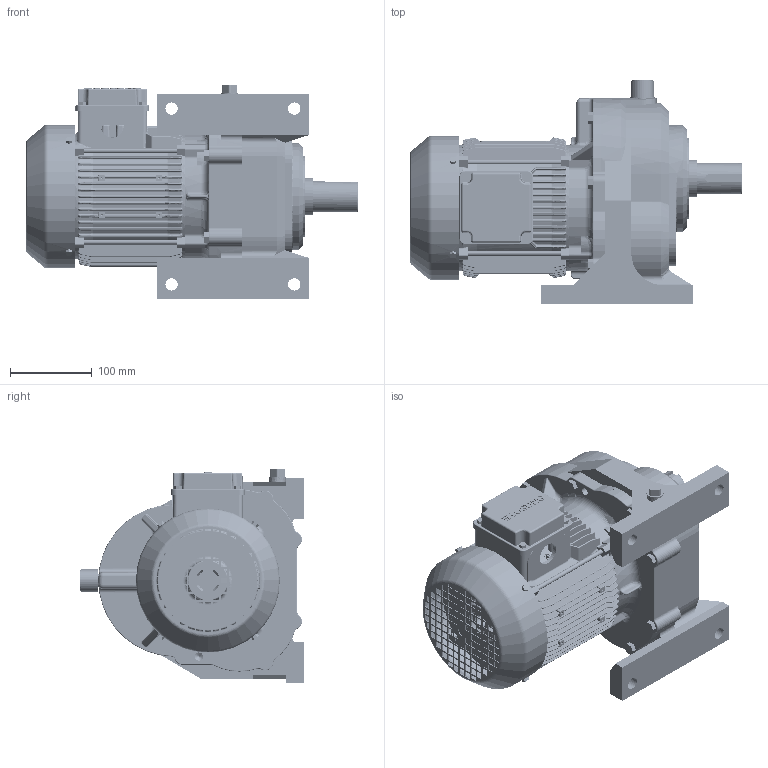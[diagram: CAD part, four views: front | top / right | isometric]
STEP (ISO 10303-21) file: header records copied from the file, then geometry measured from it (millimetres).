
FILE_DESCRIPTION (( 'STEP AP214' ), '1' );
FILE_NAME ('EK2DO100751H0001_F1HA15_0.75KW_R40~120_CUSTOMER_.stp', '2024-03-13T05:36:54', ( '' ), ( '' ), 'SwSTEP 2.0', 'SolidWorks 2022', '' );
FILE_SCHEMA (( 'AUTOMOTIVE_DESIGN' ));
Length unit declared in the file: millimetre
Products named in the file (1): EK2DO100751H0001_F1HA15_0.75KW_R40~120_CUSTOMER_
Bounding box: 406 x 273 x 261 mm (x, y, z)
Volume: 6066701.7 mm3; surface area: 883388.7 mm2
Topology: 30 solids, 30 shells, 6592 faces, 16473 edges, 9932 vertices
Faces by surface type: cylinder 2112, bspline 1897, plane 1473, torus 719, cone 296, sphere 95
Entity records: 322859 total; most frequent: CARTESIAN_POINT 105022, ORIENTED_EDGE 32708, DIRECTION 27730, EDGE_CURVE 16354, AXIS2_PLACEMENT_3D 10985, VERTEX_POINT 9928, EDGE_LOOP 7036, UNCERTAINTY_MEASURE_WITH_UNIT 6624
